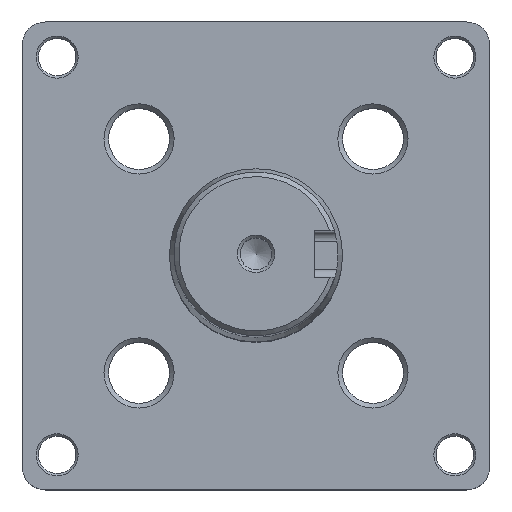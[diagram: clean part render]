
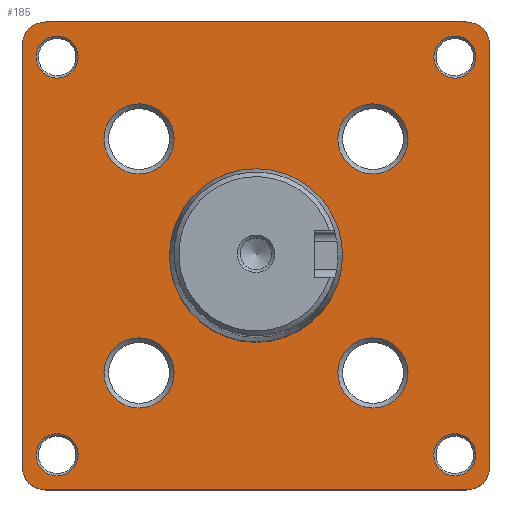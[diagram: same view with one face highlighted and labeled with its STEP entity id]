
A CAD part, top view. The second image highlights one B-rep face of the part: STEP entity #185.
In plain terms, the highlighted planar face has unit normal (0, 0, 1).
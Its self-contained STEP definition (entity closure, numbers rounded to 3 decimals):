
#185=ADVANCED_FACE('',(#276,#277,#278,#279,#280,#281,#282,#283,#284,#285),
#252,.T.);
#252=PLANE('',#1182);
#276=FACE_BOUND('',#362,.T.);
#277=FACE_BOUND('',#363,.T.);
#278=FACE_BOUND('',#364,.T.);
#279=FACE_BOUND('',#365,.T.);
#280=FACE_BOUND('',#366,.T.);
#281=FACE_BOUND('',#367,.T.);
#282=FACE_BOUND('',#368,.T.);
#283=FACE_BOUND('',#369,.T.);
#284=FACE_BOUND('',#370,.T.);
#285=FACE_BOUND('',#371,.T.);
#362=EDGE_LOOP('',(#547,#548,#549,#550,#551,#552,#553,#554));
#363=EDGE_LOOP('',(#555));
#364=EDGE_LOOP('',(#556));
#365=EDGE_LOOP('',(#557));
#366=EDGE_LOOP('',(#558));
#367=EDGE_LOOP('',(#559));
#368=EDGE_LOOP('',(#560));
#369=EDGE_LOOP('',(#561));
#370=EDGE_LOOP('',(#562));
#371=EDGE_LOOP('',(#563,#564,#565,#566,#567,#568,#569,#570));
#479=CIRCLE('',#1166,16.5);
#480=CIRCLE('',#1167,16.5);
#481=CIRCLE('',#1168,16.5);
#482=CIRCLE('',#1169,16.5);
#483=CIRCLE('',#1170,7.5);
#484=CIRCLE('',#1171,7.5);
#485=CIRCLE('',#1172,7.5);
#486=CIRCLE('',#1173,7.5);
#487=CIRCLE('',#1174,4.5);
#488=CIRCLE('',#1175,4.5);
#489=CIRCLE('',#1176,4.5);
#490=CIRCLE('',#1177,4.5);
#491=CIRCLE('',#1178,5.);
#492=CIRCLE('',#1179,5.);
#493=CIRCLE('',#1180,5.);
#494=CIRCLE('',#1181,5.);
#547=ORIENTED_EDGE('',*,*,#913,.F.);
#548=ORIENTED_EDGE('',*,*,#914,.F.);
#549=ORIENTED_EDGE('',*,*,#915,.F.);
#550=ORIENTED_EDGE('',*,*,#916,.F.);
#551=ORIENTED_EDGE('',*,*,#917,.F.);
#552=ORIENTED_EDGE('',*,*,#918,.F.);
#553=ORIENTED_EDGE('',*,*,#919,.F.);
#554=ORIENTED_EDGE('',*,*,#920,.F.);
#555=ORIENTED_EDGE('',*,*,#921,.T.);
#556=ORIENTED_EDGE('',*,*,#922,.T.);
#557=ORIENTED_EDGE('',*,*,#923,.T.);
#558=ORIENTED_EDGE('',*,*,#924,.T.);
#559=ORIENTED_EDGE('',*,*,#925,.F.);
#560=ORIENTED_EDGE('',*,*,#926,.F.);
#561=ORIENTED_EDGE('',*,*,#927,.F.);
#562=ORIENTED_EDGE('',*,*,#928,.F.);
#563=ORIENTED_EDGE('',*,*,#929,.F.);
#564=ORIENTED_EDGE('',*,*,#930,.T.);
#565=ORIENTED_EDGE('',*,*,#931,.F.);
#566=ORIENTED_EDGE('',*,*,#932,.T.);
#567=ORIENTED_EDGE('',*,*,#933,.F.);
#568=ORIENTED_EDGE('',*,*,#934,.T.);
#569=ORIENTED_EDGE('',*,*,#935,.F.);
#570=ORIENTED_EDGE('',*,*,#936,.T.);
#811=VERTEX_POINT('',#1635);
#812=VERTEX_POINT('',#1636);
#813=VERTEX_POINT('',#1638);
#814=VERTEX_POINT('',#1640);
#815=VERTEX_POINT('',#1642);
#816=VERTEX_POINT('',#1644);
#817=VERTEX_POINT('',#1646);
#818=VERTEX_POINT('',#1648);
#819=VERTEX_POINT('',#1651);
#820=VERTEX_POINT('',#1653);
#821=VERTEX_POINT('',#1655);
#822=VERTEX_POINT('',#1657);
#823=VERTEX_POINT('',#1659);
#824=VERTEX_POINT('',#1661);
#825=VERTEX_POINT('',#1663);
#826=VERTEX_POINT('',#1665);
#827=VERTEX_POINT('',#1667);
#828=VERTEX_POINT('',#1668);
#829=VERTEX_POINT('',#1670);
#830=VERTEX_POINT('',#1672);
#831=VERTEX_POINT('',#1674);
#832=VERTEX_POINT('',#1676);
#833=VERTEX_POINT('',#1678);
#834=VERTEX_POINT('',#1680);
#913=EDGE_CURVE('',#811,#812,#1045,.T.);
#914=EDGE_CURVE('',#813,#811,#479,.T.);
#915=EDGE_CURVE('',#814,#813,#1046,.T.);
#916=EDGE_CURVE('',#815,#814,#480,.T.);
#917=EDGE_CURVE('',#816,#815,#1047,.T.);
#918=EDGE_CURVE('',#817,#816,#481,.T.);
#919=EDGE_CURVE('',#818,#817,#1048,.T.);
#920=EDGE_CURVE('',#812,#818,#482,.T.);
#921=EDGE_CURVE('',#819,#819,#483,.T.);
#922=EDGE_CURVE('',#820,#820,#484,.T.);
#923=EDGE_CURVE('',#821,#821,#485,.T.);
#924=EDGE_CURVE('',#822,#822,#486,.T.);
#925=EDGE_CURVE('',#823,#823,#487,.T.);
#926=EDGE_CURVE('',#824,#824,#488,.T.);
#927=EDGE_CURVE('',#825,#825,#489,.T.);
#928=EDGE_CURVE('',#826,#826,#490,.T.);
#929=EDGE_CURVE('',#827,#828,#1049,.T.);
#930=EDGE_CURVE('',#827,#829,#491,.T.);
#931=EDGE_CURVE('',#830,#829,#1050,.T.);
#932=EDGE_CURVE('',#830,#831,#492,.T.);
#933=EDGE_CURVE('',#832,#831,#1051,.T.);
#934=EDGE_CURVE('',#832,#833,#493,.T.);
#935=EDGE_CURVE('',#834,#833,#1052,.T.);
#936=EDGE_CURVE('',#834,#828,#494,.T.);
#1045=LINE('',#1634,#1105);
#1046=LINE('',#1639,#1106);
#1047=LINE('',#1643,#1107);
#1048=LINE('',#1647,#1108);
#1049=LINE('',#1666,#1109);
#1050=LINE('',#1671,#1110);
#1051=LINE('',#1675,#1111);
#1052=LINE('',#1679,#1112);
#1105=VECTOR('',#1303,1.);
#1106=VECTOR('',#1306,1.);
#1107=VECTOR('',#1309,1.);
#1108=VECTOR('',#1312,1.);
#1109=VECTOR('',#1331,1.);
#1110=VECTOR('',#1334,1.);
#1111=VECTOR('',#1337,1.);
#1112=VECTOR('',#1340,1.);
#1166=AXIS2_PLACEMENT_3D('',#1637,#1304,#1305);
#1167=AXIS2_PLACEMENT_3D('',#1641,#1307,#1308);
#1168=AXIS2_PLACEMENT_3D('',#1645,#1310,#1311);
#1169=AXIS2_PLACEMENT_3D('',#1649,#1313,#1314);
#1170=AXIS2_PLACEMENT_3D('',#1650,#1315,#1316);
#1171=AXIS2_PLACEMENT_3D('',#1652,#1317,#1318);
#1172=AXIS2_PLACEMENT_3D('',#1654,#1319,#1320);
#1173=AXIS2_PLACEMENT_3D('',#1656,#1321,#1322);
#1174=AXIS2_PLACEMENT_3D('',#1658,#1323,#1324);
#1175=AXIS2_PLACEMENT_3D('',#1660,#1325,#1326);
#1176=AXIS2_PLACEMENT_3D('',#1662,#1327,#1328);
#1177=AXIS2_PLACEMENT_3D('',#1664,#1329,#1330);
#1178=AXIS2_PLACEMENT_3D('',#1669,#1332,#1333);
#1179=AXIS2_PLACEMENT_3D('',#1673,#1335,#1336);
#1180=AXIS2_PLACEMENT_3D('',#1677,#1338,#1339);
#1181=AXIS2_PLACEMENT_3D('',#1681,#1341,#1342);
#1182=AXIS2_PLACEMENT_3D('',#1682,#1343,#1344);
#1303=DIRECTION('',(1.,0.,0.));
#1304=DIRECTION('',(0.,0.,1.));
#1305=DIRECTION('',(1.,0.,0.));
#1306=DIRECTION('',(0.,-1.,0.));
#1307=DIRECTION('',(0.,0.,1.));
#1308=DIRECTION('',(1.,0.,0.));
#1309=DIRECTION('',(-1.,0.,0.));
#1310=DIRECTION('',(0.,0.,1.));
#1311=DIRECTION('',(1.,0.,0.));
#1312=DIRECTION('',(0.,1.,0.));
#1313=DIRECTION('',(0.,0.,1.));
#1314=DIRECTION('',(1.,0.,0.));
#1315=DIRECTION('',(0.,0.,-1.));
#1316=DIRECTION('',(1.,0.,0.));
#1317=DIRECTION('',(0.,0.,-1.));
#1318=DIRECTION('',(1.,0.,0.));
#1319=DIRECTION('',(0.,0.,-1.));
#1320=DIRECTION('',(1.,0.,0.));
#1321=DIRECTION('',(0.,0.,-1.));
#1322=DIRECTION('',(1.,0.,0.));
#1323=DIRECTION('',(0.,0.,1.));
#1324=DIRECTION('',(1.,0.,0.));
#1325=DIRECTION('',(0.,0.,1.));
#1326=DIRECTION('',(1.,0.,0.));
#1327=DIRECTION('',(0.,0.,1.));
#1328=DIRECTION('',(1.,0.,0.));
#1329=DIRECTION('',(0.,0.,1.));
#1330=DIRECTION('',(1.,0.,0.));
#1331=DIRECTION('',(1.,0.,0.));
#1332=DIRECTION('',(0.,0.,1.));
#1333=DIRECTION('',(1.,0.,0.));
#1334=DIRECTION('',(0.,1.,0.));
#1335=DIRECTION('',(0.,0.,1.));
#1336=DIRECTION('',(1.,0.,0.));
#1337=DIRECTION('',(-1.,0.,0.));
#1338=DIRECTION('',(0.,0.,1.));
#1339=DIRECTION('',(1.,0.,0.));
#1340=DIRECTION('',(0.,-1.,0.));
#1341=DIRECTION('',(0.,0.,1.));
#1342=DIRECTION('',(1.,0.,0.));
#1343=DIRECTION('',(0.,0.,1.));
#1344=DIRECTION('',(1.,0.,0.));
#1634=CARTESIAN_POINT('',(0.,-13.5,13.));
#1635=CARTESIAN_POINT('',(-9.487,-13.5,13.));
#1636=CARTESIAN_POINT('',(9.487,-13.5,13.));
#1637=CARTESIAN_POINT('',(0.,0.,13.));
#1638=CARTESIAN_POINT('',(-13.5,-9.487,13.));
#1639=CARTESIAN_POINT('',(-13.5,0.,13.));
#1640=CARTESIAN_POINT('',(-13.5,9.487,13.));
#1641=CARTESIAN_POINT('',(0.,0.,13.));
#1642=CARTESIAN_POINT('',(-9.487,13.5,13.));
#1643=CARTESIAN_POINT('',(0.,13.5,13.));
#1644=CARTESIAN_POINT('',(9.487,13.5,13.));
#1645=CARTESIAN_POINT('',(0.,0.,13.));
#1646=CARTESIAN_POINT('',(13.5,9.487,13.));
#1647=CARTESIAN_POINT('',(13.5,0.,13.));
#1648=CARTESIAN_POINT('',(13.5,-9.487,13.));
#1649=CARTESIAN_POINT('',(0.,0.,13.));
#1650=CARTESIAN_POINT('',(-25.,25.,13.));
#1651=CARTESIAN_POINT('',(-17.5,25.,13.));
#1652=CARTESIAN_POINT('',(-25.,-25.,13.));
#1653=CARTESIAN_POINT('',(-17.5,-25.,13.));
#1654=CARTESIAN_POINT('',(25.,-25.,13.));
#1655=CARTESIAN_POINT('',(32.5,-25.,13.));
#1656=CARTESIAN_POINT('',(25.,25.,13.));
#1657=CARTESIAN_POINT('',(32.5,25.,13.));
#1658=CARTESIAN_POINT('',(42.5,42.5,13.));
#1659=CARTESIAN_POINT('',(47.,42.5,13.));
#1660=CARTESIAN_POINT('',(42.5,-42.5,13.));
#1661=CARTESIAN_POINT('',(47.,-42.5,13.));
#1662=CARTESIAN_POINT('',(-42.5,42.5,13.));
#1663=CARTESIAN_POINT('',(-38.,42.5,13.));
#1664=CARTESIAN_POINT('',(-42.5,-42.5,13.));
#1665=CARTESIAN_POINT('',(-38.,-42.5,13.));
#1666=CARTESIAN_POINT('',(-50.,50.,13.));
#1667=CARTESIAN_POINT('',(-45.,50.,13.));
#1668=CARTESIAN_POINT('',(45.,50.,13.));
#1669=CARTESIAN_POINT('',(-45.,45.,13.));
#1670=CARTESIAN_POINT('',(-50.,45.,13.));
#1671=CARTESIAN_POINT('',(-50.,-50.,13.));
#1672=CARTESIAN_POINT('',(-50.,-45.,13.));
#1673=CARTESIAN_POINT('',(-45.,-45.,13.));
#1674=CARTESIAN_POINT('',(-45.,-50.,13.));
#1675=CARTESIAN_POINT('',(50.,-50.,13.));
#1676=CARTESIAN_POINT('',(45.,-50.,13.));
#1677=CARTESIAN_POINT('',(45.,-45.,13.));
#1678=CARTESIAN_POINT('',(50.,-45.,13.));
#1679=CARTESIAN_POINT('',(50.,50.,13.));
#1680=CARTESIAN_POINT('',(50.,45.,13.));
#1681=CARTESIAN_POINT('',(45.,45.,13.));
#1682=CARTESIAN_POINT('',(0.,0.,13.));
